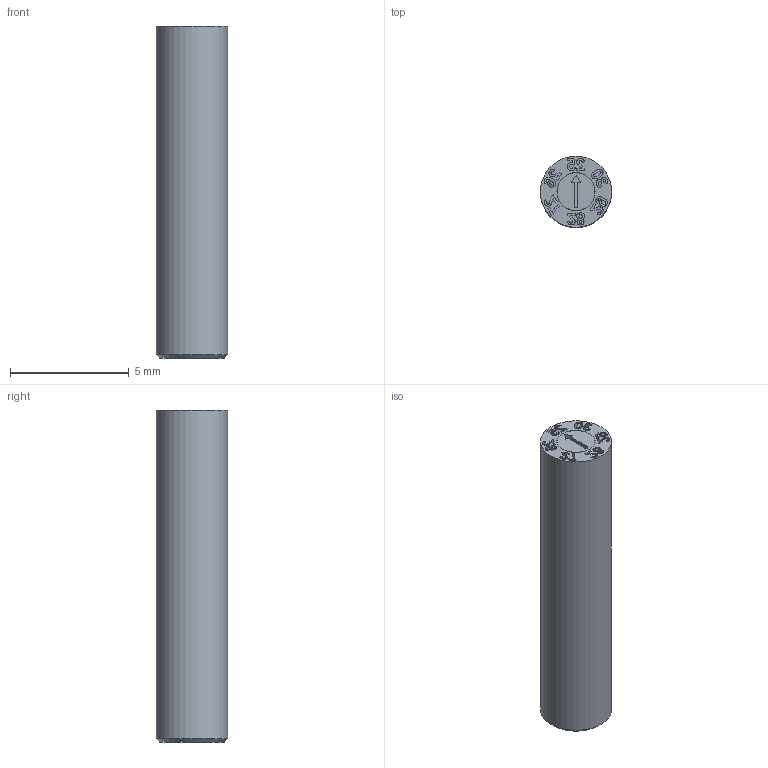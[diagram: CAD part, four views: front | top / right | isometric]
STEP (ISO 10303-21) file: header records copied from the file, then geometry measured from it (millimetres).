
FILE_DESCRIPTION(/* description */ (''),/* implementation_level */ '2;1');
FILE_NAME(/* name */ 'IMC-D1000-Y3.step',/* time_stamp */ '2025-04-07T10:59:10+02:00',/* author */ (''),/* organization */ (''),/* preprocessor_version */ 'ST-DEVELOPER v20.1',/* originating_system */ 'Autodesk Translation Framework v14.4.0.0',/* authorisation */ '');
FILE_SCHEMA (('AUTOMOTIVE_DESIGN { 1 0 10303 214 3 1 1 }'));
Length unit declared in the file: millimetre
Products named in the file (1): D1000-Y3
Bounding box: 3 x 3 x 14 mm (x, y, z)
Volume: 90.8 mm3; surface area: 180.3 mm2
Topology: 1 solids, 1 shells, 300 faces, 832 edges, 554 vertices
Faces by surface type: bspline 227, plane 65, cylinder 5, cone 3
Full cylindrical faces by diameter (mm): 1.6 x1, 1.61 x1, 1.623 x1, 3 x1
Entity records: 11691 total; most frequent: CARTESIAN_POINT 5545, ORIENTED_EDGE 1662, EDGE_CURVE 831, VERTEX_POINT 554, DIRECTION 538, B_SPLINE_CURVE_WITH_KNOTS 454, LINE 364, VECTOR 364
